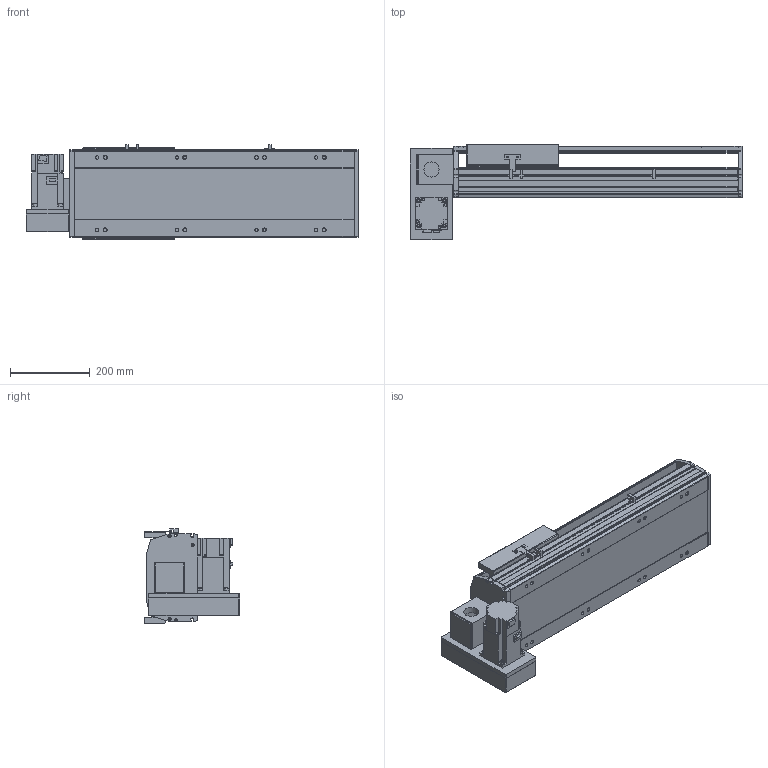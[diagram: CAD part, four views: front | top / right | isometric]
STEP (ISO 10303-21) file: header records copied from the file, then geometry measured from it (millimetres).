
FILE_DESCRIPTION(/* description */ ('STEP AP214'),/* implementation_level */ '2;1');
FILE_NAME(/* name */ 'PBS220-P40-S350-LD-T75-C1-N(0)',/* time_stamp */ '2022-06-27T09:42:50+02:00',/* author */ ('License CC BY-ND 4.0'),/* organization */ ('CADENAS'),/* preprocessor_version */ 'ST-DEVELOPER v18.102',/* originating_system */ 'PARTsolutions',/* authorisation */ ' ');
FILE_SCHEMA (('AUTOMOTIVE_DESIGN {1 0 10303 214 3 1 1}'));
Length unit declared in the file: millimetre
Products named in the file (7): PBS220-P40-S350-LD-T75-C1-N(0); PBS220_sensor; PBS220_plant; PBS220_sliser; T75-p1; PBS220T-LD_motors; PBS220-S350()_body
Assembly tree (8 placements, depth 2):
  PBS220-P40-S350-LD-T75-C1-N(0)
    PBS220_sensor  x3
    PBS220_plant
    PBS220_sliser
    T75-p1
    PBS220T-LD_motors
    PBS220-S350()_body
Bounding box: 834 x 239 x 238.5 mm (x, y, z)
Volume: 12705520.7 mm3; surface area: 1354738.4 mm2
Topology: 8 solids, 8 shells, 866 faces, 2284 edges, 1486 vertices
Faces by surface type: plane 582, cylinder 252, cone 32
Full cylindrical faces by diameter (mm): 2.013 x4, 4.5 x14, 4.917 x4, 6 x7, 6.647 x8, 8 x10, 8.376 x8, 8.5 x8, 10 x6, 14 x8, 38 x2, 40 x1, 70 x1
Entity records: 24380 total; most frequent: DIRECTION 4239, CARTESIAN_POINT 4228, ORIENTED_EDGE 3962, EDGE_CURVE 1981, AXIS2_PLACEMENT_3D 1451, VERTEX_POINT 1352, LINE 1337, VECTOR 1337
